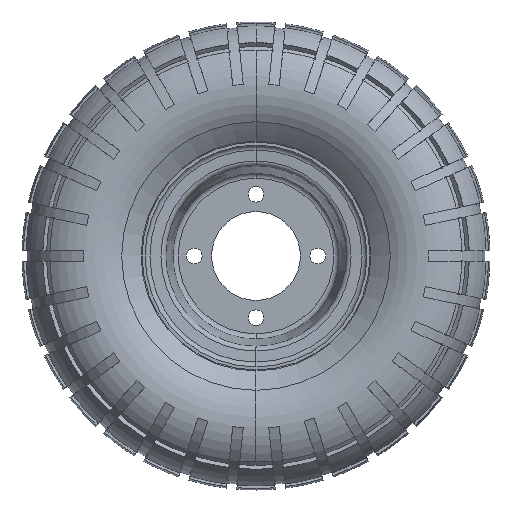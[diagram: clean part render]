
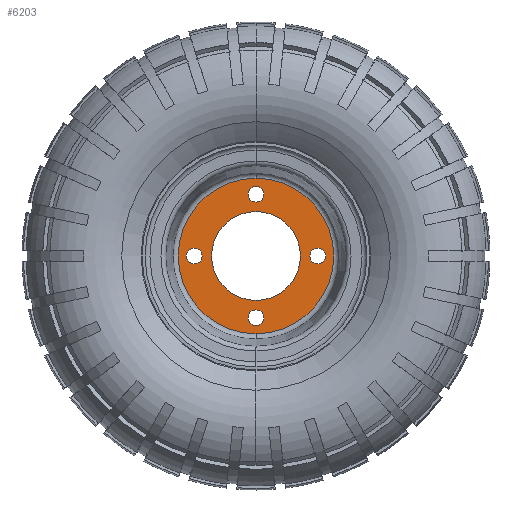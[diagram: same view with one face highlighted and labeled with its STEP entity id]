
A CAD part, left-side view. The second image highlights one B-rep face of the part: STEP entity #6203.
In plain terms, the highlighted planar face has unit normal (-1, 0, 0).
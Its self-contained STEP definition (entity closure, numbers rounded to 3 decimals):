
#336 = EDGE_CURVE ( 'NONE', #22632, #47877, #25752, .T. ) ;
#854 = CIRCLE ( 'NONE', #27110, 4.5 ) ;
#1155 = EDGE_CURVE ( 'NONE', #22213, #11544, #32731, .T. ) ;
#1381 = EDGE_CURVE ( 'NONE', #11309, #41197, #1673, .T. ) ;
#1548 = CIRCLE ( 'NONE', #3412, 4.5 ) ;
#1673 = CIRCLE ( 'NONE', #37956, 4.5 ) ;
#2517 = CARTESIAN_POINT ( 'NONE',  ( -1.7, 35., -4.5 ) ) ;
#2700 = CIRCLE ( 'NONE', #52099, 44.008 ) ;
#3412 = AXIS2_PLACEMENT_3D ( 'NONE', #50572, #21600, #29405 ) ;
#3912 = ORIENTED_EDGE ( 'NONE', *, *, #10025, .T. ) ;
#3935 = CARTESIAN_POINT ( 'NONE',  ( -1.7, 0., 0. ) ) ;
#4487 = AXIS2_PLACEMENT_3D ( 'NONE', #31110, #47285, #6285 ) ;
#5384 = DIRECTION ( 'NONE',  ( -1., 0., 0. ) ) ;
#6203 = ADVANCED_FACE ( 'NONE', ( #49050, #35393, #20458, #21788, #37993, #36693 ), #27302, .T. ) ;
#6285 = DIRECTION ( 'NONE',  ( 0., 0., 1. ) ) ;
#6529 = VERTEX_POINT ( 'NONE', #18197 ) ;
#6813 = DIRECTION ( 'NONE',  ( 0., 0., 1. ) ) ;
#7630 = CARTESIAN_POINT ( 'NONE',  ( -1.7, 35., 0. ) ) ;
#7861 = ORIENTED_EDGE ( 'NONE', *, *, #42330, .F. ) ;
#8132 = CIRCLE ( 'NONE', #44215, 4.5 ) ;
#9047 = ORIENTED_EDGE ( 'NONE', *, *, #46300, .T. ) ;
#9319 = AXIS2_PLACEMENT_3D ( 'NONE', #23473, #19655, #6813 ) ;
#9513 = EDGE_LOOP ( 'NONE', ( #44750, #35356 ) ) ;
#9701 = CARTESIAN_POINT ( 'NONE',  ( -1.7, 0., 39.5 ) ) ;
#10025 = EDGE_CURVE ( 'NONE', #11544, #22213, #53620, .T. ) ;
#10242 = VERTEX_POINT ( 'NONE', #20460 ) ;
#10546 = EDGE_LOOP ( 'NONE', ( #33605, #14270 ) ) ;
#11309 = VERTEX_POINT ( 'NONE', #50956 ) ;
#11544 = VERTEX_POINT ( 'NONE', #20125 ) ;
#12136 = CIRCLE ( 'NONE', #16459, 44.008 ) ;
#12241 = DIRECTION ( 'NONE',  ( 0., 0., 1. ) ) ;
#12329 = EDGE_CURVE ( 'NONE', #41197, #11309, #44049, .T. ) ;
#12426 = DIRECTION ( 'NONE',  ( 0., 0., 1. ) ) ;
#12523 = DIRECTION ( 'NONE',  ( 0., 0., 1. ) ) ;
#14270 = ORIENTED_EDGE ( 'NONE', *, *, #12329, .F. ) ;
#14697 = VERTEX_POINT ( 'NONE', #19651 ) ;
#15260 = EDGE_CURVE ( 'NONE', #24945, #10242, #38046, .T. ) ;
#15834 = DIRECTION ( 'NONE',  ( -1., 0., 0. ) ) ;
#16459 = AXIS2_PLACEMENT_3D ( 'NONE', #26405, #34002, #30030 ) ;
#18197 = CARTESIAN_POINT ( 'NONE',  ( -1.7, 0., -39.5 ) ) ;
#19651 = CARTESIAN_POINT ( 'NONE',  ( -1.7, 0., 44.008 ) ) ;
#19655 = DIRECTION ( 'NONE',  ( -1., 0., 0. ) ) ;
#19764 = DIRECTION ( 'NONE',  ( -1., 0., 0. ) ) ;
#20125 = CARTESIAN_POINT ( 'NONE',  ( -1.7, 0., -25.15 ) ) ;
#20153 = CARTESIAN_POINT ( 'NONE',  ( -1.7, 0., -35. ) ) ;
#20458 = FACE_BOUND ( 'NONE', #10546, .T. ) ;
#20460 = CARTESIAN_POINT ( 'NONE',  ( -1.7, -35., 4.5 ) ) ;
#20515 = AXIS2_PLACEMENT_3D ( 'NONE', #41002, #24313, #12523 ) ;
#21019 = EDGE_CURVE ( 'NONE', #6529, #21235, #8132, .T. ) ;
#21235 = VERTEX_POINT ( 'NONE', #52098 ) ;
#21600 = DIRECTION ( 'NONE',  ( -1., 0., 0. ) ) ;
#21788 = FACE_BOUND ( 'NONE', #9513, .T. ) ;
#22213 = VERTEX_POINT ( 'NONE', #23542 ) ;
#22632 = VERTEX_POINT ( 'NONE', #2517 ) ;
#23473 = CARTESIAN_POINT ( 'NONE',  ( -1.7, 24.904, 0. ) ) ;
#23542 = CARTESIAN_POINT ( 'NONE',  ( -1.7, 0., 25.15 ) ) ;
#23570 = CIRCLE ( 'NONE', #29248, 4.5 ) ;
#23964 = CARTESIAN_POINT ( 'NONE',  ( -1.7, -35., -4.5 ) ) ;
#24075 = AXIS2_PLACEMENT_3D ( 'NONE', #29437, #50077, #12241 ) ;
#24313 = DIRECTION ( 'NONE',  ( -1., 0., 0. ) ) ;
#24341 = DIRECTION ( 'NONE',  ( 0., 0., 1. ) ) ;
#24945 = VERTEX_POINT ( 'NONE', #23964 ) ;
#25752 = CIRCLE ( 'NONE', #39322, 4.5 ) ;
#26405 = CARTESIAN_POINT ( 'NONE',  ( -1.7, 0., 0. ) ) ;
#27110 = AXIS2_PLACEMENT_3D ( 'NONE', #20153, #15834, #24341 ) ;
#27302 = PLANE ( 'NONE',  #9319 ) ;
#28317 = EDGE_LOOP ( 'NONE', ( #35997, #49819 ) ) ;
#28528 = ORIENTED_EDGE ( 'NONE', *, *, #49826, .T. ) ;
#29248 = AXIS2_PLACEMENT_3D ( 'NONE', #42556, #42385, #50846 ) ;
#29405 = DIRECTION ( 'NONE',  ( 0., 0., 1. ) ) ;
#29437 = CARTESIAN_POINT ( 'NONE',  ( -1.7, 0., 0. ) ) ;
#29661 = EDGE_LOOP ( 'NONE', ( #53359, #7861 ) ) ;
#30030 = DIRECTION ( 'NONE',  ( 0., 0., 1. ) ) ;
#31027 = DIRECTION ( 'NONE',  ( 1., 0., 0. ) ) ;
#31110 = CARTESIAN_POINT ( 'NONE',  ( -1.7, 0., 35. ) ) ;
#31365 = CARTESIAN_POINT ( 'NONE',  ( -1.7, 0., 0. ) ) ;
#31750 = CARTESIAN_POINT ( 'NONE',  ( -1.7, 35., 4.5 ) ) ;
#32731 = CIRCLE ( 'NONE', #24075, 25.15 ) ;
#33605 = ORIENTED_EDGE ( 'NONE', *, *, #1381, .F. ) ;
#34002 = DIRECTION ( 'NONE',  ( -1., 0., 0. ) ) ;
#34123 = AXIS2_PLACEMENT_3D ( 'NONE', #31365, #31027, #39366 ) ;
#34606 = CARTESIAN_POINT ( 'NONE',  ( -1.7, 0., -44.008 ) ) ;
#35216 = EDGE_CURVE ( 'NONE', #21235, #6529, #854, .T. ) ;
#35356 = ORIENTED_EDGE ( 'NONE', *, *, #39477, .F. ) ;
#35393 = FACE_BOUND ( 'NONE', #29661, .T. ) ;
#35894 = CARTESIAN_POINT ( 'NONE',  ( -1.7, 0., 35. ) ) ;
#35997 = ORIENTED_EDGE ( 'NONE', *, *, #21019, .F. ) ;
#36450 = EDGE_LOOP ( 'NONE', ( #9047, #28528 ) ) ;
#36693 = FACE_BOUND ( 'NONE', #43825, .T. ) ;
#37956 = AXIS2_PLACEMENT_3D ( 'NONE', #35894, #52595, #52220 ) ;
#37993 = FACE_BOUND ( 'NONE', #28317, .T. ) ;
#38046 = CIRCLE ( 'NONE', #20515, 4.5 ) ;
#39322 = AXIS2_PLACEMENT_3D ( 'NONE', #7630, #19764, #41183 ) ;
#39366 = DIRECTION ( 'NONE',  ( 0., 0., 1. ) ) ;
#39477 = EDGE_CURVE ( 'NONE', #10242, #24945, #23570, .T. ) ;
#40332 = VERTEX_POINT ( 'NONE', #34606 ) ;
#41002 = CARTESIAN_POINT ( 'NONE',  ( -1.7, -35., 0. ) ) ;
#41183 = DIRECTION ( 'NONE',  ( 0., 0., 1. ) ) ;
#41197 = VERTEX_POINT ( 'NONE', #9701 ) ;
#42330 = EDGE_CURVE ( 'NONE', #47877, #22632, #1548, .T. ) ;
#42385 = DIRECTION ( 'NONE',  ( -1., 0., 0. ) ) ;
#42556 = CARTESIAN_POINT ( 'NONE',  ( -1.7, -35., 0. ) ) ;
#43825 = EDGE_LOOP ( 'NONE', ( #49483, #3912 ) ) ;
#44049 = CIRCLE ( 'NONE', #4487, 4.5 ) ;
#44215 = AXIS2_PLACEMENT_3D ( 'NONE', #46368, #5384, #46905 ) ;
#44750 = ORIENTED_EDGE ( 'NONE', *, *, #15260, .F. ) ;
#46300 = EDGE_CURVE ( 'NONE', #14697, #40332, #12136, .T. ) ;
#46368 = CARTESIAN_POINT ( 'NONE',  ( -1.7, 0., -35. ) ) ;
#46905 = DIRECTION ( 'NONE',  ( 0., 0., 1. ) ) ;
#47285 = DIRECTION ( 'NONE',  ( -1., 0., 0. ) ) ;
#47877 = VERTEX_POINT ( 'NONE', #31750 ) ;
#49050 = FACE_OUTER_BOUND ( 'NONE', #36450, .T. ) ;
#49385 = DIRECTION ( 'NONE',  ( -1., 0., 0. ) ) ;
#49483 = ORIENTED_EDGE ( 'NONE', *, *, #1155, .T. ) ;
#49819 = ORIENTED_EDGE ( 'NONE', *, *, #35216, .F. ) ;
#49826 = EDGE_CURVE ( 'NONE', #40332, #14697, #2700, .T. ) ;
#50077 = DIRECTION ( 'NONE',  ( 1., 0., 0. ) ) ;
#50572 = CARTESIAN_POINT ( 'NONE',  ( -1.7, 35., 0. ) ) ;
#50846 = DIRECTION ( 'NONE',  ( 0., 0., 1. ) ) ;
#50956 = CARTESIAN_POINT ( 'NONE',  ( -1.7, 0., 30.5 ) ) ;
#52098 = CARTESIAN_POINT ( 'NONE',  ( -1.7, 0., -30.5 ) ) ;
#52099 = AXIS2_PLACEMENT_3D ( 'NONE', #3935, #49385, #12426 ) ;
#52220 = DIRECTION ( 'NONE',  ( 0., 0., 1. ) ) ;
#52595 = DIRECTION ( 'NONE',  ( -1., 0., 0. ) ) ;
#53359 = ORIENTED_EDGE ( 'NONE', *, *, #336, .F. ) ;
#53620 = CIRCLE ( 'NONE', #34123, 25.15 ) ;
